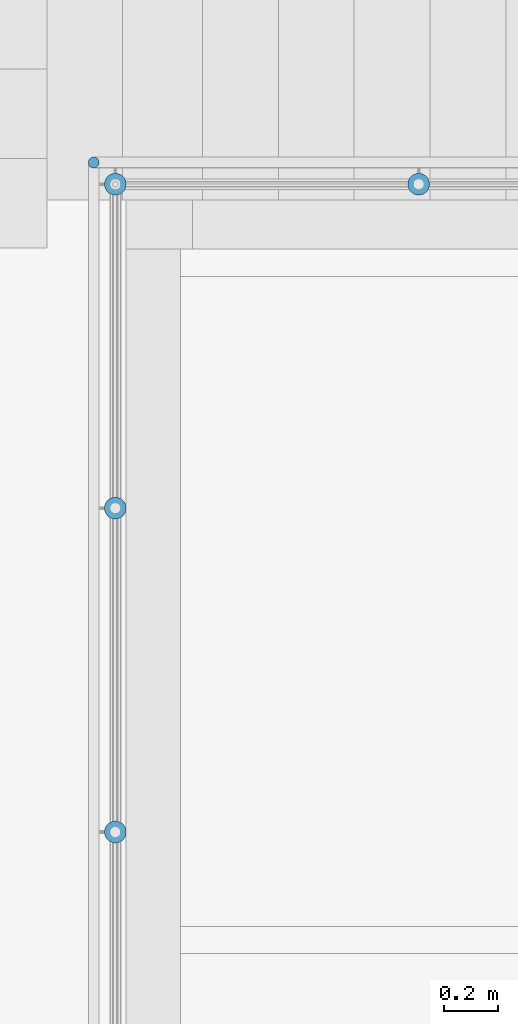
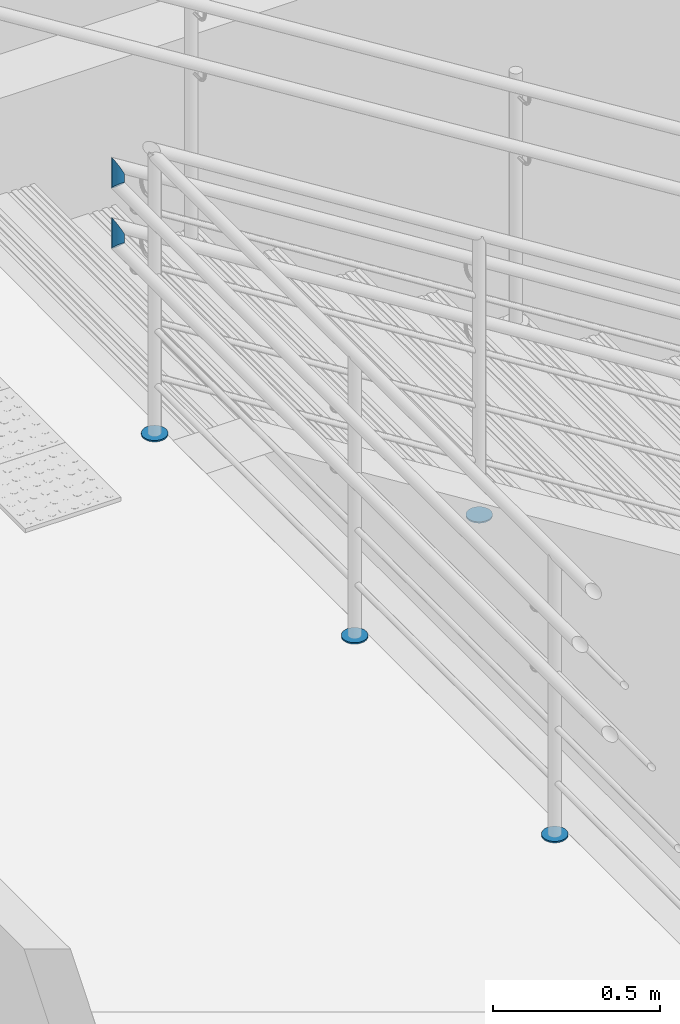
# One storey, part 136 of 237: 6 building element parts, 1 element without a shape of its own.
"""IFC2X3 building model written with IfcOpenShell, lengths in millimetres."""

from ifc_helpers import new_model, entity, si_unit, converted_unit, derived_unit, money_unit, direction, frame, origin_with_axes, place, context, subcontext, project, spatial, faceted_brep, material, type_object, element, aggregate, save


model = new_model("IFC2X3")

# Units and contexts
model_context = context("Model", 3, precision=0.01, world=origin_with_axes(), true_north=direction((0.0, 1.0)))
body_context = subcontext(model_context, "Body", "Model", "MODEL_VIEW")
ifc_project = project(units=[si_unit("LENGTHUNIT", "METRE", prefix="MILLI"), si_unit("AREAUNIT", "SQUARE_METRE"), si_unit("VOLUMEUNIT", "CUBIC_METRE"), converted_unit("PLANEANGLEUNIT", "DEGREE", entity("IfcPlaneAngleMeasure", 0.0174532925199), si_unit("PLANEANGLEUNIT", "RADIAN"), dimensions=[0, 0, 0, 0, 0, 0, 0]), money_unit("USD"), converted_unit("TIMEUNIT", "Year", entity("IfcTimeMeasure", 31556926.0), si_unit("TIMEUNIT", "SECOND"), dimensions=[0, 0, 1, 0, 0, 0, 0]), si_unit("MASSUNIT", "GRAM", prefix="KILO"), si_unit("THERMODYNAMICTEMPERATUREUNIT", "DEGREE_CELSIUS"), si_unit("LUMINOUSINTENSITYUNIT", "LUMEN"), si_unit("ENERGYUNIT", "JOULE", prefix="MEGA"), derived_unit("THERMALCONDUCTANCEUNIT", [(si_unit("POWERUNIT", "WATT"), 1), (si_unit("LENGTHUNIT", "METRE"), -1), (si_unit("THERMODYNAMICTEMPERATUREUNIT", "KELVIN"), -1)]), derived_unit("SPECIFICHEATCAPACITYUNIT", [(si_unit("ENERGYUNIT", "JOULE"), 1), (si_unit("MASSUNIT", "GRAM", prefix="KILO"), -1), (si_unit("THERMODYNAMICTEMPERATUREUNIT", "KELVIN"), -1)]), derived_unit("MASSDENSITYUNIT", [(si_unit("MASSUNIT", "GRAM", prefix="KILO"), 1), (si_unit("VOLUMEUNIT", "CUBIC_METRE"), -1)])], contexts=[model_context])

# Site, building, storey
site_placement = place(None, origin_with_axes())
site = spatial("IfcSite", under=ifc_project, at=site_placement, Name="Local", CompositionType="ELEMENT")
building_placement = place(site_placement, origin_with_axes())
building = spatial("IfcBuilding", under=site, at=building_placement, Name="Construção", CompositionType="ELEMENT")
storey_placement = place(building_placement, origin_with_axes())
storey = spatial("IfcBuildingStorey", under=building, at=storey_placement, Name="Pavimento Térreo", CompositionType="ELEMENT", Elevation=0.0)

# Railing, building element parts
railing_type = type_object("IfcRailingType", Name="Tipo de Guarda-Corpo", PredefinedType="NOTDEFINED")
railing_placement = place(storey_placement, frame((104000.0, 14000.0, -7099.22292764), z_axis=(0.0, 0.0, 1.0), x_axis=(1.0, 0.0, 0.0)))
railing = element("IfcRailing", 1, at=railing_placement, inside=storey, type_object=railing_type, Name="Guarda-Corpo - 001", PredefinedType="NOTDEFINED")
ifc_material_1 = material(Name="Alumínio")
building_element_part_1_placement = place(railing_placement, origin_with_axes())
building_element_part_1 = element("IfcBuildingElementPart", 2, at=building_element_part_1_placement, material=ifc_material_1, Name="Alumínio", context=body_context, shape_type="Brep", body=[
    faceted_brep([(-3776.134975, 18731.4214364, 2117.14324273), (-3783.08089407, 18730.8136546, 2117.14324273), (-3783.08089407, 18730.8136546, 2122.14324273), (-3776.134975, 18731.4214364, 2122.14324273), (-3769.18903986, 18730.8138385, 2117.14324273), (-3762.45413735, 18729.0093223, 2117.14324273), (-3756.13490409, 18726.0627172, 2117.14324273), (-3750.42334677, 18722.0635544, 2117.14324273), (-3745.49300819, 18717.1333463, 2117.14324273), (-3741.49369418, 18711.4218949, 2117.14324273), (-3738.54692187, 18705.1027396, 2117.14324273), (-3736.74222745, 18698.3678848, 2117.14324273), (-3736.13444565, 18691.4219658, 2117.14324273), (-3736.74204361, 18684.4760306, 2117.14324273), (-3738.54655977, 18677.7411281, 2117.14324273), (-3741.49316482, 18671.4218949, 2117.14324273), (-3745.49232766, 18665.7103375, 2117.14324273), (-3750.42253575, 18660.779999, 2117.14324273), (-3756.13398721, 18656.7806849, 2117.14324273), (-3762.45314248, 18653.8339126, 2117.14324273), (-3769.18799723, 18652.0292182, 2117.14324273), (-3776.13391629, 18651.4214364, 2117.14324273), (-3783.07985144, 18652.0290344, 2117.14324273), (-3789.81475395, 18653.8335505, 2117.14324273), (-3796.13398721, 18656.7801556, 2117.14324273), (-3801.84554452, 18660.7793184, 2117.14324273), (-3806.7758831, 18665.7095265, 2117.14324273), (-3810.77519712, 18671.420978, 2117.14324273), (-3813.72196942, 18677.7401333, 2117.14324273), (-3815.52666384, 18684.474988, 2117.14324273), (-3816.13444564, 18691.4209071, 2117.14324273), (-3815.52684769, 18698.3668422, 2117.14324273), (-3813.72233153, 18705.1017447, 2117.14324273), (-3810.77572647, 18711.420978, 2117.14324273), (-3806.77656363, 18717.1325353, 2117.14324273), (-3801.84635554, 18722.0628739, 2117.14324273), (-3796.13490408, 18726.0621879, 2117.14324273), (-3789.81574881, 18729.0089602, 2117.14324273), (-3789.81574881, 18729.0089602, 2122.14324273), (-3796.13490408, 18726.0621879, 2122.14324273), (-3801.84635554, 18722.0628739, 2122.14324273), (-3806.77656363, 18717.1325353, 2122.14324273), (-3810.77572647, 18711.420978, 2122.14324273), (-3813.72233153, 18705.1017447, 2122.14324273), (-3815.52684769, 18698.3668422, 2122.14324273), (-3816.13444564, 18691.4209071, 2122.14324273), (-3815.52666384, 18684.474988, 2122.14324273), (-3813.72196942, 18677.7401333, 2122.14324273), (-3810.77519712, 18671.420978, 2122.14324273), (-3806.7758831, 18665.7095265, 2122.14324273), (-3801.84554452, 18660.7793184, 2122.14324273), (-3796.13398721, 18656.7801556, 2122.14324273), (-3789.81475395, 18653.8335505, 2122.14324273), (-3783.07985144, 18652.0290344, 2122.14324273), (-3776.13391629, 18651.4214364, 2122.14324273), (-3769.18799723, 18652.0292182, 2122.14324273), (-3762.45314248, 18653.8339126, 2122.14324273), (-3756.13398721, 18656.7806849, 2122.14324273), (-3750.42253575, 18660.779999, 2122.14324273), (-3745.49232766, 18665.7103375, 2122.14324273), (-3741.49316482, 18671.4218949, 2122.14324273), (-3738.54655977, 18677.7411281, 2122.14324273), (-3736.74204361, 18684.4760306, 2122.14324273), (-3736.13444565, 18691.4219658, 2122.14324273), (-3736.74222745, 18698.3678848, 2122.14324273), (-3738.54692187, 18705.1027396, 2122.14324273), (-3741.49369418, 18711.4218949, 2122.14324273), (-3745.49300819, 18717.1333463, 2122.14324273), (-3750.42334677, 18722.0635544, 2122.14324273), (-3756.13490409, 18726.0627172, 2122.14324273), (-3762.45413735, 18729.0093223, 2122.14324273), (-3769.18903986, 18730.8138385, 2122.14324273)], [[[0, 1, 2, 3]], [[0, 4, 5, 6, 7, 8, 9, 10, 11, 12, 13, 14, 15, 16, 17, 18, 19, 20, 21, 22, 23, 24, 25, 26, 27, 28, 29, 30, 31, 32, 33, 34, 35, 36, 37, 1]], [[1, 37, 38, 2]], [[3, 2, 38, 39, 40, 41, 42, 43, 44, 45, 46, 47, 48, 49, 50, 51, 52, 53, 54, 55, 56, 57, 58, 59, 60, 61, 62, 63, 64, 65, 66, 67, 68, 69, 70, 71]], [[4, 0, 3, 71]], [[5, 4, 71, 70]], [[6, 5, 70, 69]], [[7, 6, 69, 68]], [[8, 7, 68, 67]], [[9, 8, 67, 66]], [[10, 9, 66, 65]], [[11, 10, 65, 64]], [[12, 11, 64, 63]], [[13, 12, 63, 62]], [[14, 13, 62, 61]], [[15, 14, 61, 60]], [[16, 15, 60, 59]], [[17, 16, 59, 58]], [[18, 17, 58, 57]], [[19, 18, 57, 56]], [[20, 19, 56, 55]], [[21, 20, 55, 54]], [[22, 21, 54, 53]], [[23, 22, 53, 52]], [[24, 23, 52, 51]], [[25, 24, 51, 50]], [[26, 25, 50, 49]], [[27, 26, 49, 48]], [[28, 27, 48, 47]], [[29, 28, 47, 46]], [[30, 29, 46, 45]], [[31, 30, 45, 44]], [[32, 31, 44, 43]], [[33, 32, 43, 42]], [[34, 33, 42, 41]], [[35, 34, 41, 40]], [[36, 35, 40, 39]], [[37, 36, 39, 38]]]),
])
ifc_material_2 = material(Name="Aço - Inoxidável")
building_element_part_2_placement = place(railing_placement, origin_with_axes())
building_element_part_2 = element("IfcBuildingElementPart", 3, at=building_element_part_2_placement, material=ifc_material_2, Name="Aço - Inoxidável", context=body_context, shape_type="Brep", body=[
    faceted_brep([(-3836.43939539, 18774.894665, 2820.60449832), (-3836.13550449, 18771.4217055, 2820.05555958), (-3836.13550449, 18771.4217055, 2784.61538462), (-3836.43939539, 18774.894665, 2781.14242106), (-3836.43930346, 18767.9487379, 2820.60433157), (-3837.34174261, 18778.2620924, 2822.23446855), (-3838.81512876, 18781.42167, 2824.89594445), (-3840.81478577, 18784.2773958, 2828.50805843), (-3843.27995507, 18786.7424998, 2832.96105823), (-3846.13573373, 18788.7420812, 2838.11964171), (-3849.29535036, 18790.2153837, 2843.82706792), (-3852.66280162, 18791.1176418, 2849.90991959), (-3856.13576919, 18791.4214408, 2856.18337237), (-3859.60872872, 18791.1175499, 2862.45681055), (-3862.97615609, 18790.2152027, 2868.53961891), (-3866.13573373, 18788.7418165, 2874.24697437), (-3868.99145945, 18786.7421595, 2879.40546184), (-3871.4565635, 18784.2769902, 2883.85834329), (-3873.45614491, 18781.4212115, 2887.47032016), (-3874.92944743, 18778.2615949, 2890.13164436), (-3875.83170551, 18774.8941437, 2891.76145291), (-3876.13550449, 18771.4211761, 2892.3102249), (-3875.83161358, 18767.9482166, 2891.76128617), (-3874.92926637, 18764.5807892, 2890.13131594), (-3873.45588021, 18761.4212116, 2887.46984003), (-3871.4562232, 18758.5654858, 2883.85772605), (-3868.99105391, 18756.1003818, 2879.40472625), (-3866.13527525, 18754.1008004, 2874.24614277), (-3862.97565861, 18752.6274978, 2868.53871657), (-3859.60820736, 18751.7252398, 2862.45586489), (-3856.13523978, 18751.4214408, 2856.18241212), (-3852.66228025, 18751.7253317, 2849.90897393), (-3849.29485288, 18752.6276789, 2843.82616558), (-3846.13527525, 18754.1010651, 2838.11881011), (-3843.27954952, 18756.1007221, 2832.96032264), (-3840.81444548, 18758.5658914, 2828.5074412), (-3838.81486406, 18761.42167, 2824.89546433), (-3837.34156154, 18764.5812867, 2822.23414012), (-3836.43930346, 18767.9487379, 2788.08834817), (-3840.81478577, 18784.2773958, 2771.75963242), (-3838.81512876, 18781.42167, 2774.61538462), (-3837.34174261, 18778.2620924, 2777.77498175), (-3837.34156154, 18764.5812867, 2791.45578748), (-3838.81486406, 18761.42167, 2794.61538462), (-3840.81444548, 18758.5658914, 2797.47113681), (-3843.27954952, 18756.1007221, 2799.93627348), (-3846.13527525, 18754.1010651, 2801.93589269), (-3849.29485288, 18752.6276789, 2803.40923703), (-3852.66228025, 18751.7253317, 2804.31153968), (-3856.13523978, 18751.4214408, 2804.61538462), (-3859.60820736, 18751.7252398, 2804.31153968), (-3862.97565861, 18752.6274978, 2803.40923703), (-3866.13527525, 18754.1008004, 2801.93589269), (-3868.99105391, 18756.1003818, 2799.93627348), (-3871.4562232, 18758.5654858, 2797.47113681), (-3873.45588021, 18761.4212116, 2794.61538462), (-3874.92926637, 18764.5807892, 2791.45578748), (-3875.83161358, 18767.9482166, 2788.08834817), (-3876.13550449, 18771.4211761, 2784.61538462), (-3875.83170551, 18774.8941437, 2781.14242106), (-3874.92944743, 18778.2615949, 2777.77498175), (-3873.45614491, 18781.4212115, 2774.61538462), (-3871.4565635, 18784.2769902, 2771.75963242), (-3868.99145945, 18786.7421595, 2769.29449575), (-3866.13573373, 18788.7418165, 2767.29487654), (-3862.97615609, 18790.2152027, 2765.8215322), (-3859.60872872, 18791.1175499, 2764.91922956), (-3856.13576919, 18791.4214408, 2764.61538462), (-3852.66280162, 18791.1176418, 2764.91922956), (-3849.29535036, 18790.2153837, 2765.8215322), (-3846.13573373, 18788.7420812, 2767.29487654), (-3843.27995507, 18786.7424998, 2769.29449575)], [[[0, 1, 2, 3]], [[4, 1, 0, 5, 6, 7, 8, 9, 10, 11, 12, 13, 14, 15, 16, 17, 18, 19, 20, 21, 22, 23, 24, 25, 26, 27, 28, 29, 30, 31, 32, 33, 34, 35, 36, 37]], [[1, 4, 38, 2]], [[39, 40, 41, 3, 2, 38, 42, 43, 44, 45, 46, 47, 48, 49, 50, 51, 52, 53, 54, 55, 56, 57, 58, 59, 60, 61, 62, 63, 64, 65, 66, 67, 68, 69, 70, 71]], [[5, 0, 3, 41]], [[6, 5, 41, 40]], [[7, 6, 40, 39]], [[8, 7, 39, 71]], [[9, 8, 71, 70]], [[10, 9, 70, 69]], [[11, 10, 69, 68]], [[12, 11, 68, 67]], [[13, 12, 67, 66]], [[14, 13, 66, 65]], [[15, 14, 65, 64]], [[16, 15, 64, 63]], [[17, 16, 63, 62]], [[18, 17, 62, 61]], [[19, 18, 61, 60]], [[20, 19, 60, 59]], [[21, 20, 59, 58]], [[22, 21, 58, 57]], [[23, 22, 57, 56]], [[24, 23, 56, 55]], [[25, 24, 55, 54]], [[26, 25, 54, 53]], [[27, 26, 53, 52]], [[28, 27, 52, 51]], [[29, 28, 51, 50]], [[30, 29, 50, 49]], [[31, 30, 49, 48]], [[32, 31, 48, 47]], [[33, 32, 47, 46]], [[34, 33, 46, 45]], [[35, 34, 45, 44]], [[36, 35, 44, 43]], [[37, 36, 43, 42]], [[4, 37, 42, 38]]]),
])
building_element_part_3_placement = place(railing_placement, origin_with_axes())
building_element_part_3 = element("IfcBuildingElementPart", 4, at=building_element_part_3_placement, material=ifc_material_2, Name="Aço - Inoxidável", context=body_context, shape_type="Brep", body=[
    faceted_brep([(-3836.43939539, 18774.894665, 3040.60449832), (-3836.13550449, 18771.4217055, 3040.05555958), (-3836.13550449, 18771.4217055, 3004.61538462), (-3836.43939539, 18774.894665, 3001.14242106), (-3836.43930346, 18767.9487379, 3040.60433157), (-3837.34174261, 18778.2620924, 3042.23446855), (-3838.81512876, 18781.42167, 3044.89594445), (-3840.81478577, 18784.2773958, 3048.50805843), (-3843.27995507, 18786.7424998, 3052.96105823), (-3846.13573373, 18788.7420812, 3058.11964171), (-3849.29535036, 18790.2153837, 3063.82706792), (-3852.66280162, 18791.1176418, 3069.90991959), (-3856.13576919, 18791.4214408, 3076.18337237), (-3859.60872872, 18791.1175499, 3082.45681055), (-3862.97615609, 18790.2152027, 3088.53961891), (-3866.13573373, 18788.7418165, 3094.24697437), (-3868.99145945, 18786.7421595, 3099.40546184), (-3871.4565635, 18784.2769902, 3103.85834329), (-3873.45614491, 18781.4212115, 3107.47032016), (-3874.92944743, 18778.2615949, 3110.13164436), (-3875.83170551, 18774.8941437, 3111.76145291), (-3876.13550449, 18771.4211761, 3112.3102249), (-3875.83161358, 18767.9482166, 3111.76128617), (-3874.92926637, 18764.5807892, 3110.13131594), (-3873.45588021, 18761.4212116, 3107.46984003), (-3871.4562232, 18758.5654858, 3103.85772605), (-3868.99105391, 18756.1003818, 3099.40472625), (-3866.13527525, 18754.1008004, 3094.24614277), (-3862.97565861, 18752.6274978, 3088.53871657), (-3859.60820736, 18751.7252398, 3082.45586489), (-3856.13523978, 18751.4214408, 3076.18241212), (-3852.66228025, 18751.7253317, 3069.90897393), (-3849.29485288, 18752.6276789, 3063.82616558), (-3846.13527525, 18754.1010651, 3058.11881011), (-3843.27954952, 18756.1007221, 3052.96032264), (-3840.81444548, 18758.5658914, 3048.5074412), (-3838.81486406, 18761.42167, 3044.89546433), (-3837.34156154, 18764.5812867, 3042.23414012), (-3836.43930346, 18767.9487379, 3008.08834817), (-3840.81478577, 18784.2773958, 2991.75963242), (-3838.81512876, 18781.42167, 2994.61538462), (-3837.34174261, 18778.2620924, 2997.77498175), (-3837.34156154, 18764.5812867, 3011.45578748), (-3838.81486406, 18761.42167, 3014.61538462), (-3840.81444548, 18758.5658914, 3017.47113681), (-3843.27954952, 18756.1007221, 3019.93627348), (-3846.13527525, 18754.1010651, 3021.93589269), (-3849.29485288, 18752.6276789, 3023.40923703), (-3852.66228025, 18751.7253317, 3024.31153968), (-3856.13523978, 18751.4214408, 3024.61538462), (-3859.60820736, 18751.7252398, 3024.31153968), (-3862.97565861, 18752.6274978, 3023.40923703), (-3866.13527525, 18754.1008004, 3021.93589269), (-3868.99105391, 18756.1003818, 3019.93627348), (-3871.4562232, 18758.5654858, 3017.47113681), (-3873.45588021, 18761.4212116, 3014.61538462), (-3874.92926637, 18764.5807892, 3011.45578748), (-3875.83161358, 18767.9482166, 3008.08834817), (-3876.13550449, 18771.4211761, 3004.61538462), (-3875.83170551, 18774.8941437, 3001.14242106), (-3874.92944743, 18778.2615949, 2997.77498175), (-3873.45614491, 18781.4212115, 2994.61538462), (-3871.4565635, 18784.2769902, 2991.75963242), (-3868.99145945, 18786.7421595, 2989.29449575), (-3866.13573373, 18788.7418165, 2987.29487654), (-3862.97615609, 18790.2152027, 2985.8215322), (-3859.60872872, 18791.1175499, 2984.91922956), (-3856.13576919, 18791.4214408, 2984.61538462), (-3852.66280162, 18791.1176418, 2984.91922956), (-3849.29535036, 18790.2153837, 2985.8215322), (-3846.13573373, 18788.7420812, 2987.29487654), (-3843.27995507, 18786.7424998, 2989.29449575)], [[[0, 1, 2, 3]], [[4, 1, 0, 5, 6, 7, 8, 9, 10, 11, 12, 13, 14, 15, 16, 17, 18, 19, 20, 21, 22, 23, 24, 25, 26, 27, 28, 29, 30, 31, 32, 33, 34, 35, 36, 37]], [[1, 4, 38, 2]], [[39, 40, 41, 3, 2, 38, 42, 43, 44, 45, 46, 47, 48, 49, 50, 51, 52, 53, 54, 55, 56, 57, 58, 59, 60, 61, 62, 63, 64, 65, 66, 67, 68, 69, 70, 71]], [[5, 0, 3, 41]], [[6, 5, 41, 40]], [[7, 6, 40, 39]], [[8, 7, 39, 71]], [[9, 8, 71, 70]], [[10, 9, 70, 69]], [[11, 10, 69, 68]], [[12, 11, 68, 67]], [[13, 12, 67, 66]], [[14, 13, 66, 65]], [[15, 14, 65, 64]], [[16, 15, 64, 63]], [[17, 16, 63, 62]], [[18, 17, 62, 61]], [[19, 18, 61, 60]], [[20, 19, 60, 59]], [[21, 20, 59, 58]], [[22, 21, 58, 57]], [[23, 22, 57, 56]], [[24, 23, 56, 55]], [[25, 24, 55, 54]], [[26, 25, 54, 53]], [[27, 26, 53, 52]], [[28, 27, 52, 51]], [[29, 28, 51, 50]], [[30, 29, 50, 49]], [[31, 30, 49, 48]], [[32, 31, 48, 47]], [[33, 32, 47, 46]], [[34, 33, 46, 45]], [[35, 34, 45, 44]], [[36, 35, 44, 43]], [[37, 36, 43, 42]], [[4, 37, 42, 38]]]),
])
building_element_part_4_placement = place(railing_placement, origin_with_axes())
building_element_part_4 = element("IfcBuildingElementPart", 5, at=building_element_part_4_placement, material=ifc_material_1, Name="Alumínio", context=body_context, shape_type="Brep", body=[
    faceted_brep([(-3776.10332482, 16339.8315835, 2104.61538462), (-3783.04924389, 16339.2238017, 2104.61538462), (-3783.04924389, 16339.2238017, 2109.61538462), (-3776.10332482, 16339.8315835, 2109.61538462), (-3769.15738967, 16339.2239856, 2104.61538462), (-3762.42248717, 16337.4194694, 2104.61538462), (-3756.1032539, 16334.4728643, 2104.61538462), (-3750.39169659, 16330.4737015, 2104.61538462), (-3745.46135801, 16325.5434934, 2104.61538462), (-3741.46204399, 16319.832042, 2104.61538462), (-3738.51527169, 16313.5128867, 2104.61538462), (-3736.71057727, 16306.7780319, 2104.61538462), (-3736.10279547, 16299.8321129, 2104.61538462), (-3736.71039343, 16292.8861777, 2104.61538462), (-3738.51490958, 16286.1512752, 2104.61538462), (-3741.46151464, 16279.832042, 2104.61538462), (-3745.46067748, 16274.1204846, 2104.61538462), (-3750.39088557, 16269.1901461, 2104.61538462), (-3756.10233703, 16265.190832, 2104.61538462), (-3762.4214923, 16262.2440597, 2104.61538462), (-3769.15634704, 16260.4393653, 2104.61538462), (-3776.10226611, 16259.8315835, 2104.61538462), (-3783.04820125, 16260.4391815, 2104.61538462), (-3789.78310376, 16262.2436976, 2104.61538462), (-3796.10233703, 16265.1903027, 2104.61538462), (-3801.81389434, 16269.1894655, 2104.61538462), (-3806.74423292, 16274.1196736, 2104.61538462), (-3810.74354693, 16279.8311251, 2104.61538462), (-3813.69031924, 16286.1502804, 2104.61538462), (-3815.49501366, 16292.8851351, 2104.61538462), (-3816.10279546, 16299.8310542, 2104.61538462), (-3815.4951975, 16306.7769893, 2104.61538462), (-3813.69068134, 16313.5118918, 2104.61538462), (-3810.74407629, 16319.8311251, 2104.61538462), (-3806.74491345, 16325.5426824, 2104.61538462), (-3801.81470536, 16330.473021, 2104.61538462), (-3796.1032539, 16334.472335, 2104.61538462), (-3789.78409863, 16337.4191073, 2104.61538462), (-3789.78409863, 16337.4191073, 2109.61538462), (-3796.1032539, 16334.472335, 2109.61538462), (-3801.81470536, 16330.473021, 2109.61538462), (-3806.74491345, 16325.5426824, 2109.61538462), (-3810.74407629, 16319.8311251, 2109.61538462), (-3813.69068134, 16313.5118918, 2109.61538462), (-3815.4951975, 16306.7769893, 2109.61538462), (-3816.10279546, 16299.8310542, 2109.61538462), (-3815.49501366, 16292.8851351, 2109.61538462), (-3813.69031924, 16286.1502804, 2109.61538462), (-3810.74354693, 16279.8311251, 2109.61538462), (-3806.74423292, 16274.1196736, 2109.61538462), (-3801.81389434, 16269.1894655, 2109.61538462), (-3796.10233703, 16265.1903027, 2109.61538462), (-3789.78310376, 16262.2436976, 2109.61538462), (-3783.04820125, 16260.4391815, 2109.61538462), (-3776.10226611, 16259.8315835, 2109.61538462), (-3769.15634704, 16260.4393653, 2109.61538462), (-3762.4214923, 16262.2440597, 2109.61538462), (-3756.10233703, 16265.190832, 2109.61538462), (-3750.39088557, 16269.1901461, 2109.61538462), (-3745.46067748, 16274.1204846, 2109.61538462), (-3741.46151464, 16279.832042, 2109.61538462), (-3738.51490958, 16286.1512752, 2109.61538462), (-3736.71039343, 16292.8861777, 2109.61538462), (-3736.10279547, 16299.8321129, 2109.61538462), (-3736.71057727, 16306.7780319, 2109.61538462), (-3738.51527169, 16313.5128867, 2109.61538462), (-3741.46204399, 16319.832042, 2109.61538462), (-3745.46135801, 16325.5434934, 2109.61538462), (-3750.39169659, 16330.4737015, 2109.61538462), (-3756.1032539, 16334.4728643, 2109.61538462), (-3762.42248717, 16337.4194694, 2109.61538462), (-3769.15738967, 16339.2239856, 2109.61538462)], [[[0, 1, 2, 3]], [[0, 4, 5, 6, 7, 8, 9, 10, 11, 12, 13, 14, 15, 16, 17, 18, 19, 20, 21, 22, 23, 24, 25, 26, 27, 28, 29, 30, 31, 32, 33, 34, 35, 36, 37, 1]], [[1, 37, 38, 2]], [[3, 2, 38, 39, 40, 41, 42, 43, 44, 45, 46, 47, 48, 49, 50, 51, 52, 53, 54, 55, 56, 57, 58, 59, 60, 61, 62, 63, 64, 65, 66, 67, 68, 69, 70, 71]], [[4, 0, 3, 71]], [[5, 4, 71, 70]], [[6, 5, 70, 69]], [[7, 6, 69, 68]], [[8, 7, 68, 67]], [[9, 8, 67, 66]], [[10, 9, 66, 65]], [[11, 10, 65, 64]], [[12, 11, 64, 63]], [[13, 12, 63, 62]], [[14, 13, 62, 61]], [[15, 14, 61, 60]], [[16, 15, 60, 59]], [[17, 16, 59, 58]], [[18, 17, 58, 57]], [[19, 18, 57, 56]], [[20, 19, 56, 55]], [[21, 20, 55, 54]], [[22, 21, 54, 53]], [[23, 22, 53, 52]], [[24, 23, 52, 51]], [[25, 24, 51, 50]], [[26, 25, 50, 49]], [[27, 26, 49, 48]], [[28, 27, 48, 47]], [[29, 28, 47, 46]], [[30, 29, 46, 45]], [[31, 30, 45, 44]], [[32, 31, 44, 43]], [[33, 32, 43, 42]], [[34, 33, 42, 41]], [[35, 34, 41, 40]], [[36, 35, 40, 39]], [[37, 36, 39, 38]]]),
])
building_element_part_5_placement = place(railing_placement, origin_with_axes())
building_element_part_5 = element("IfcBuildingElementPart", 6, at=building_element_part_5_placement, material=ifc_material_1, Name="Alumínio", context=body_context, shape_type="Brep", body=[
    faceted_brep([(-3776.1191499, 17535.62651, 2104.61538462), (-3783.06506897, 17535.0187282, 2104.61538462), (-3783.06506897, 17535.0187282, 2109.61538462), (-3776.1191499, 17535.62651, 2109.61538462), (-3769.17321475, 17535.018912, 2104.61538462), (-3762.43831225, 17533.2143958, 2104.61538462), (-3756.11907898, 17530.2677908, 2104.61538462), (-3750.40752167, 17526.268628, 2104.61538462), (-3745.47718309, 17521.3384199, 2104.61538462), (-3741.47786907, 17515.6269684, 2104.61538462), (-3738.53109677, 17509.3078131, 2104.61538462), (-3736.72640235, 17502.5729584, 2104.61538462), (-3736.11862055, 17495.6270393, 2104.61538462), (-3736.7262185, 17488.6811042, 2104.61538462), (-3738.53073466, 17481.9462017, 2104.61538462), (-3741.47733972, 17475.6269684, 2104.61538462), (-3745.47650256, 17469.9154111, 2104.61538462), (-3750.40671065, 17464.9850725, 2104.61538462), (-3756.11816211, 17460.9857585, 2104.61538462), (-3762.43731738, 17458.0389862, 2104.61538462), (-3769.17217212, 17456.2342918, 2104.61538462), (-3776.11809119, 17455.62651, 2104.61538462), (-3783.06402633, 17456.2341079, 2104.61538462), (-3789.79892884, 17458.0386241, 2104.61538462), (-3796.1181621, 17460.9852291, 2104.61538462), (-3801.82971942, 17464.984392, 2104.61538462), (-3806.760058, 17469.9146001, 2104.61538462), (-3810.75937201, 17475.6260515, 2104.61538462), (-3813.70614432, 17481.9452068, 2104.61538462), (-3815.51083874, 17488.6800615, 2104.61538462), (-3816.11862054, 17495.6259806, 2104.61538462), (-3815.51102258, 17502.5719158, 2104.61538462), (-3813.70650642, 17509.3068183, 2104.61538462), (-3810.75990137, 17515.6260515, 2104.61538462), (-3806.76073853, 17521.3376088, 2104.61538462), (-3801.83053044, 17526.2679474, 2104.61538462), (-3796.11907898, 17530.2672614, 2104.61538462), (-3789.79992371, 17533.2140337, 2104.61538462), (-3789.79992371, 17533.2140337, 2109.61538462), (-3796.11907898, 17530.2672614, 2109.61538462), (-3801.83053044, 17526.2679474, 2109.61538462), (-3806.76073853, 17521.3376088, 2109.61538462), (-3810.75990137, 17515.6260515, 2109.61538462), (-3813.70650642, 17509.3068183, 2109.61538462), (-3815.51102258, 17502.5719158, 2109.61538462), (-3816.11862054, 17495.6259806, 2109.61538462), (-3815.51083874, 17488.6800615, 2109.61538462), (-3813.70614432, 17481.9452068, 2109.61538462), (-3810.75937201, 17475.6260515, 2109.61538462), (-3806.760058, 17469.9146001, 2109.61538462), (-3801.82971942, 17464.984392, 2109.61538462), (-3796.1181621, 17460.9852291, 2109.61538462), (-3789.79892884, 17458.0386241, 2109.61538462), (-3783.06402633, 17456.2341079, 2109.61538462), (-3776.11809119, 17455.62651, 2109.61538462), (-3769.17217212, 17456.2342918, 2109.61538462), (-3762.43731738, 17458.0389862, 2109.61538462), (-3756.11816211, 17460.9857585, 2109.61538462), (-3750.40671065, 17464.9850725, 2109.61538462), (-3745.47650256, 17469.9154111, 2109.61538462), (-3741.47733972, 17475.6269684, 2109.61538462), (-3738.53073466, 17481.9462017, 2109.61538462), (-3736.7262185, 17488.6811042, 2109.61538462), (-3736.11862055, 17495.6270393, 2109.61538462), (-3736.72640235, 17502.5729584, 2109.61538462), (-3738.53109677, 17509.3078131, 2109.61538462), (-3741.47786907, 17515.6269684, 2109.61538462), (-3745.47718309, 17521.3384199, 2109.61538462), (-3750.40752167, 17526.268628, 2109.61538462), (-3756.11907898, 17530.2677908, 2109.61538462), (-3762.43831225, 17533.2143958, 2109.61538462), (-3769.17321475, 17535.018912, 2109.61538462)], [[[0, 1, 2, 3]], [[0, 4, 5, 6, 7, 8, 9, 10, 11, 12, 13, 14, 15, 16, 17, 18, 19, 20, 21, 22, 23, 24, 25, 26, 27, 28, 29, 30, 31, 32, 33, 34, 35, 36, 37, 1]], [[1, 37, 38, 2]], [[3, 2, 38, 39, 40, 41, 42, 43, 44, 45, 46, 47, 48, 49, 50, 51, 52, 53, 54, 55, 56, 57, 58, 59, 60, 61, 62, 63, 64, 65, 66, 67, 68, 69, 70, 71]], [[4, 0, 3, 71]], [[5, 4, 71, 70]], [[6, 5, 70, 69]], [[7, 6, 69, 68]], [[8, 7, 68, 67]], [[9, 8, 67, 66]], [[10, 9, 66, 65]], [[11, 10, 65, 64]], [[12, 11, 64, 63]], [[13, 12, 63, 62]], [[14, 13, 62, 61]], [[15, 14, 61, 60]], [[16, 15, 60, 59]], [[17, 16, 59, 58]], [[18, 17, 58, 57]], [[19, 18, 57, 56]], [[20, 19, 56, 55]], [[21, 20, 55, 54]], [[22, 21, 54, 53]], [[23, 22, 53, 52]], [[24, 23, 52, 51]], [[25, 24, 51, 50]], [[26, 25, 50, 49]], [[27, 26, 49, 48]], [[28, 27, 48, 47]], [[29, 28, 47, 46]], [[30, 29, 46, 45]], [[31, 30, 45, 44]], [[32, 31, 44, 43]], [[33, 32, 43, 42]], [[34, 33, 42, 41]], [[35, 34, 41, 40]], [[36, 35, 40, 39]], [[37, 36, 39, 38]]]),
])
building_element_part_6_placement = place(railing_placement, origin_with_axes())
building_element_part_6 = element("IfcBuildingElementPart", 7, at=building_element_part_6_placement, material=ifc_material_1, Name="Alumínio", context=body_context, shape_type="Brep", body=[
    faceted_brep([(-2616.15385579, 18691.421373, 1428.13252831), (-2616.76154528, 18698.3673002, 1428.13252831), (-2616.76154528, 18698.3673002, 1433.13252831), (-2616.15385579, 18691.421373, 1433.13252831), (-2616.76154604, 18684.4754459, 1428.13252831), (-2618.5661517, 18677.7405674, 1428.13252831), (-2621.51284073, 18671.4213733, 1428.13252831), (-2625.51207947, 18665.7098691, 1428.13252831), (-2630.44235307, 18660.7795961, 1428.13252831), (-2636.15385768, 18656.780358, 1428.13252831), (-2642.47305211, 18653.8336696, 1428.13252831), (-2649.20793083, 18652.0290647, 1428.13252831), (-2656.15385797, 18651.4213752, 1428.13252831), (-2663.09978504, 18652.0290655, 1428.13252831), (-2669.83466357, 18653.8336711, 1428.13252831), (-2676.15385768, 18656.7803601, 1428.13252831), (-2681.86536185, 18660.7795989, 1428.13252831), (-2686.79563492, 18665.7098725, 1428.13252831), (-2690.79487303, 18671.4213771, 1428.13252831), (-2693.74156136, 18677.7405715, 1428.13252831), (-2695.54616629, 18684.4754502, 1428.13252831), (-2696.15385579, 18691.4213774, 1428.13252831), (-2695.54616553, 18698.3673045, 1428.13252831), (-2693.74155987, 18705.102183, 1428.13252831), (-2690.79487084, 18711.4213771, 1428.13252831), (-2686.7956321, 18717.1328813, 1428.13252831), (-2681.8653585, 18722.0631543, 1428.13252831), (-2676.15385389, 18726.0623924, 1428.13252831), (-2669.83465946, 18729.0090808, 1428.13252831), (-2663.09978074, 18730.8136857, 1428.13252831), (-2656.1538536, 18731.4213752, 1428.13252831), (-2649.20792653, 18730.8136849, 1428.13252831), (-2642.473048, 18729.0090793, 1428.13252831), (-2636.15385389, 18726.0623903, 1428.13252831), (-2630.44234972, 18722.0631515, 1428.13252831), (-2625.51207666, 18717.1328779, 1428.13252831), (-2621.51283854, 18711.4213733, 1428.13252831), (-2618.56615021, 18705.1021789, 1428.13252831), (-2618.56615021, 18705.1021789, 1433.13252831), (-2621.51283854, 18711.4213733, 1433.13252831), (-2625.51207666, 18717.1328779, 1433.13252831), (-2630.44234972, 18722.0631515, 1433.13252831), (-2636.15385389, 18726.0623903, 1433.13252831), (-2642.473048, 18729.0090793, 1433.13252831), (-2649.20792653, 18730.8136849, 1433.13252831), (-2656.1538536, 18731.4213752, 1433.13252831), (-2663.09978074, 18730.8136857, 1433.13252831), (-2669.83465946, 18729.0090808, 1433.13252831), (-2676.15385389, 18726.0623924, 1433.13252831), (-2681.8653585, 18722.0631543, 1433.13252831), (-2686.7956321, 18717.1328813, 1433.13252831), (-2690.79487084, 18711.4213771, 1433.13252831), (-2693.74155987, 18705.102183, 1433.13252831), (-2695.54616553, 18698.3673045, 1433.13252831), (-2696.15385579, 18691.4213774, 1433.13252831), (-2695.54616629, 18684.4754502, 1433.13252831), (-2693.74156136, 18677.7405715, 1433.13252831), (-2690.79487303, 18671.4213771, 1433.13252831), (-2686.79563492, 18665.7098725, 1433.13252831), (-2681.86536185, 18660.7795989, 1433.13252831), (-2676.15385768, 18656.7803601, 1433.13252831), (-2669.83466357, 18653.8336711, 1433.13252831), (-2663.09978504, 18652.0290655, 1433.13252831), (-2656.15385797, 18651.4213752, 1433.13252831), (-2649.20793083, 18652.0290647, 1433.13252831), (-2642.47305211, 18653.8336696, 1433.13252831), (-2636.15385768, 18656.780358, 1433.13252831), (-2630.44235307, 18660.7795961, 1433.13252831), (-2625.51207947, 18665.7098691, 1433.13252831), (-2621.51284073, 18671.4213733, 1433.13252831), (-2618.5661517, 18677.7405674, 1433.13252831), (-2616.76154604, 18684.4754459, 1433.13252831)], [[[0, 1, 2, 3]], [[0, 4, 5, 6, 7, 8, 9, 10, 11, 12, 13, 14, 15, 16, 17, 18, 19, 20, 21, 22, 23, 24, 25, 26, 27, 28, 29, 30, 31, 32, 33, 34, 35, 36, 37, 1]], [[1, 37, 38, 2]], [[3, 2, 38, 39, 40, 41, 42, 43, 44, 45, 46, 47, 48, 49, 50, 51, 52, 53, 54, 55, 56, 57, 58, 59, 60, 61, 62, 63, 64, 65, 66, 67, 68, 69, 70, 71]], [[4, 0, 3, 71]], [[5, 4, 71, 70]], [[6, 5, 70, 69]], [[7, 6, 69, 68]], [[8, 7, 68, 67]], [[9, 8, 67, 66]], [[10, 9, 66, 65]], [[11, 10, 65, 64]], [[12, 11, 64, 63]], [[13, 12, 63, 62]], [[14, 13, 62, 61]], [[15, 14, 61, 60]], [[16, 15, 60, 59]], [[17, 16, 59, 58]], [[18, 17, 58, 57]], [[19, 18, 57, 56]], [[20, 19, 56, 55]], [[21, 20, 55, 54]], [[22, 21, 54, 53]], [[23, 22, 53, 52]], [[24, 23, 52, 51]], [[25, 24, 51, 50]], [[26, 25, 50, 49]], [[27, 26, 49, 48]], [[28, 27, 48, 47]], [[29, 28, 47, 46]], [[30, 29, 46, 45]], [[31, 30, 45, 44]], [[32, 31, 44, 43]], [[33, 32, 43, 42]], [[34, 33, 42, 41]], [[35, 34, 41, 40]], [[36, 35, 40, 39]], [[37, 36, 39, 38]]]),
])
aggregate(railing, [building_element_part_1, building_element_part_2, building_element_part_3, building_element_part_4, building_element_part_5, building_element_part_6])

save(model, "model.ifc")
